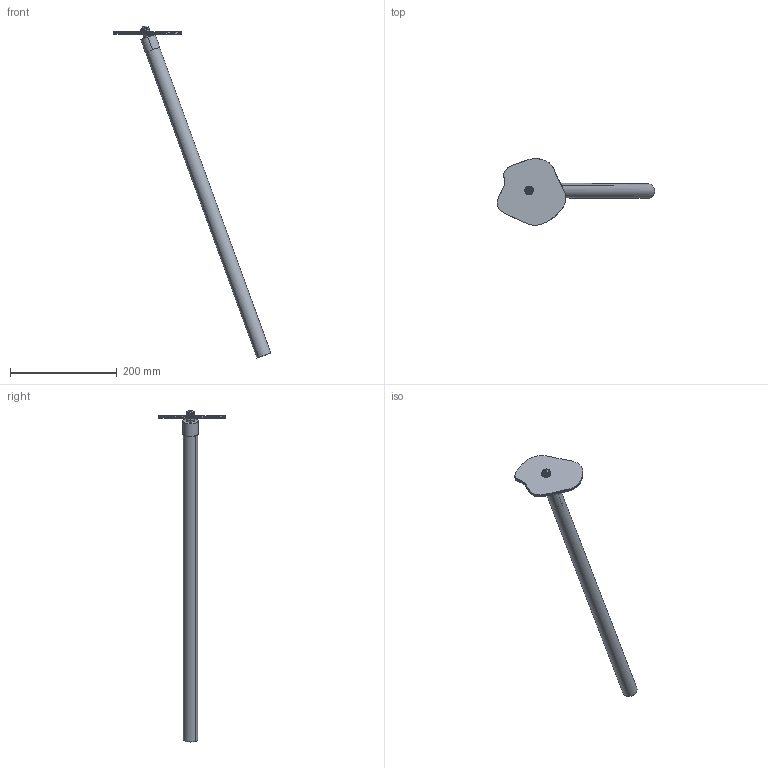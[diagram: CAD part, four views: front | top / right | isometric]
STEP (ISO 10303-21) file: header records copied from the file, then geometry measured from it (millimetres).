
FILE_DESCRIPTION (( 'STEP AP214' ), '1' );
FILE_NAME ('Flat End Connector to Angle Washers to Surface.STEP', '2013-11-14T18:55:27', ( 'ydmin' ), ( 'Microsoft' ), 'SwSTEP 2.0', 'SolidWorks 2013', '' );
FILE_SCHEMA (( 'AUTOMOTIVE_DESIGN' ));
Length unit declared in the file: inch
Products named in the file (7): Flat End Connector to Angle Washers to Surface; Perpendicular Surface_With Mounting Holes; DRP-002-0550-00; DRP-002-0513-00; 6.000 Inch Tube; 97416A119_97416A119; 91255A544_91255A544
Assembly tree (9 placements, depth 2):
  Flat End Connector to Angle Washers to Surface
    Perpendicular Surface_With Mounting Holes
    DRP-002-0550-00  x4
    DRP-002-0513-00
    91255A544_91255A544
    97416A119_97416A119
    6.000 Inch Tube
Bounding box: 294.87 x 124.76 x 622.02 mm (x, y, z)
Volume: 134987.2 mm3; surface area: 188858 mm2
Topology: 12 solids, 12 shells, 268 faces, 546 edges, 305 vertices
Faces by surface type: cylinder 117, cone 94, plane 39, bspline 14, torus 2, sphere 2
Entity records: 13759 total; most frequent: CARTESIAN_POINT 8058, DIRECTION 1053, ORIENTED_EDGE 1020, EDGE_CURVE 510, AXIS2_PLACEMENT_3D 412, VERTEX_POINT 281, EDGE_LOOP 267, FACE_OUTER_BOUND 250
